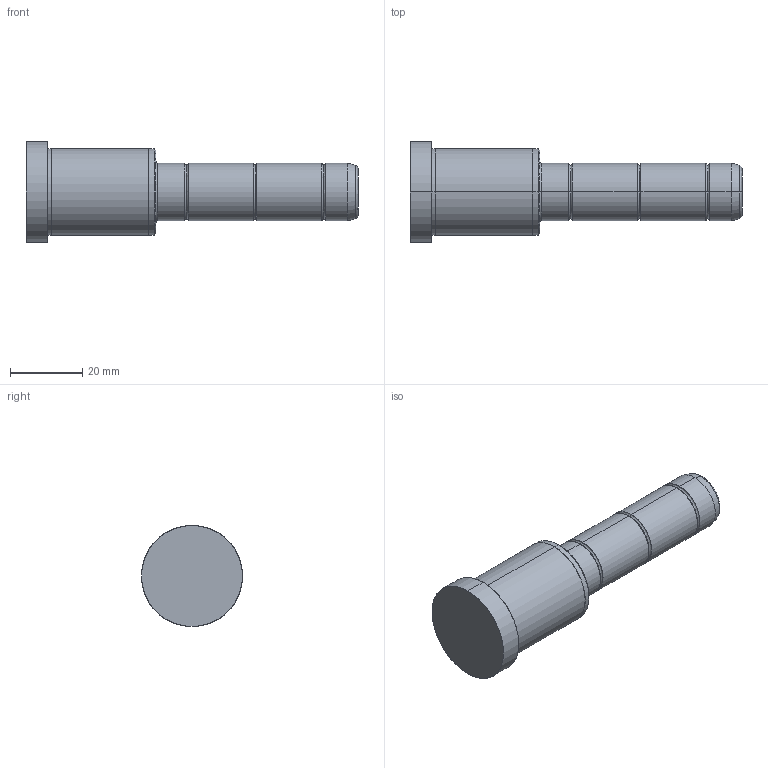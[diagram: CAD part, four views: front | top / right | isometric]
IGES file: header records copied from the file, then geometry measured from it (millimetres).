
Start section: SolidWorks IGES file using analytic representation for surfaces
Global section: file name: C:\Documents and Settings\kalite-mail\Desktop\IGS\D02\16\D02 - 16x36x56.IGS; native system: SolidWorks 2008; preprocessor: SolidWorks 2008; author: kalite-mail; date: 080616.141941; units: millimetre
Bounding box: 92 x 28 x 28 mm (x, y, z)
Surface area: 6831.5 mm2 (no closed solid volume)
Topology: 0 solids, 0 shells, 42 faces, 528 edges, 528 vertices
Faces by surface type: bspline 22, revolution 20
